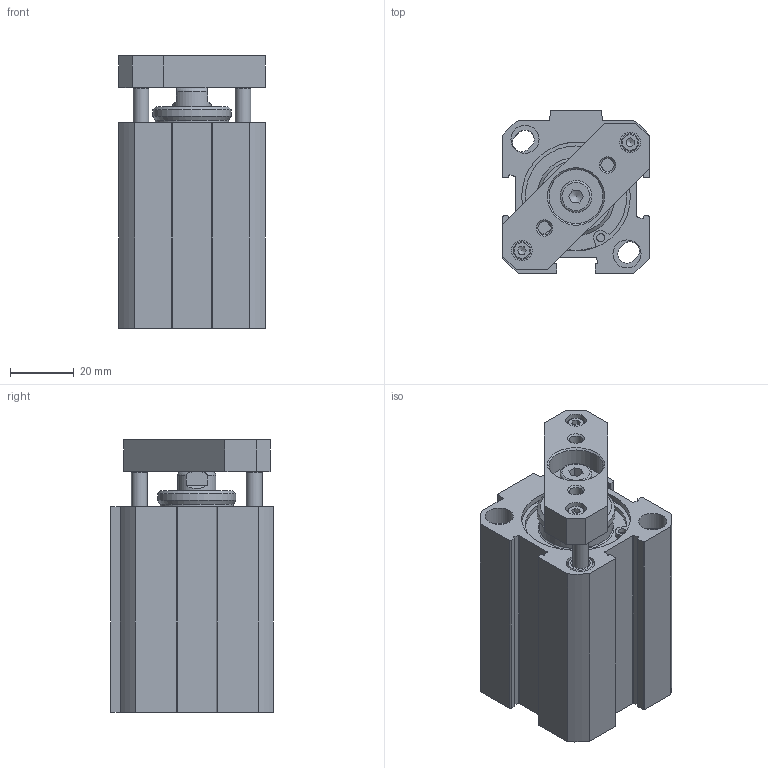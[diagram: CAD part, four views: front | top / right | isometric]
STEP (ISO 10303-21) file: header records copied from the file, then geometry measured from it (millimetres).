
FILE_DESCRIPTION(/* description */ ('Unknown'),/* implementation_level */ '2;1');
FILE_NAME(/* name */ 'FINT 32_25',/* time_stamp */ '2026-05-12T10:23:07+02:00',/* author */ ('Unknown'),/* organization */ ('Unknown'),/* preprocessor_version */ 'ST-DEVELOPER v18.102',/* originating_system */ 'Solid Edge',/* authorisation */ 'Unknown');
FILE_SCHEMA (('AUTOMOTIVE_DESIGN {1 0 10303 214 3 1 1}'));
Length unit declared in the file: millimetre
Products named in the file (7): FINT 32_25; Führungsstange; Profilrohr; Platte; Kolbenstange; Kit_1; Kit_2
Assembly tree (7 placements, depth 2):
  FINT 32_25
    Führungsstange  x2
    Profilrohr
    Platte
    Kolbenstange
    Kit_1
    Kit_2
Bounding box: 46 x 51 x 85.5 mm (x, y, z)
Volume: 114431.9 mm3; surface area: 53625.9 mm2
Topology: 9 solids, 10 shells, 311 faces, 721 edges, 463 vertices
Faces by surface type: plane 137, cylinder 104, cone 54, torus 16
Full cylindrical faces by diameter (mm): 1.6 x2, 2.459 x2, 2.5 x4, 3 x2, 3.5 x2, 4.134 x2, 4.92 x1, 5 x4, 5.5 x2, 6.25 x1, 6.5 x2, 8.566 x4, 8.7 x2, 8.8 x6, 9 x2, 10 x1, 12 x2, 12.54 x1, 13.7 x1, 14 x1, 16.32 x1, 16.5 x1, 17 x1, 23 x2, 24.5 x1, 32 x2, 33.7 x4, 34.1 x2, 35.8 x2
Entity records: 9849 total; most frequent: CARTESIAN_POINT 1420, DIRECTION 1406, ORIENTED_EDGE 1090, AXIS2_PLACEMENT_3D 574, EDGE_CURVE 545, FACE_BOUND 491, EDGE_LOOP 486, VERTEX_POINT 422
